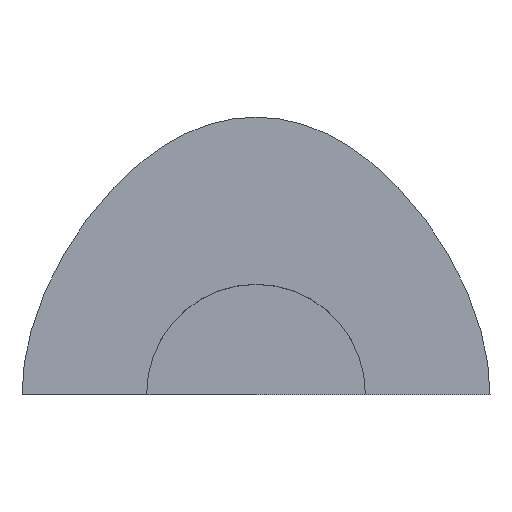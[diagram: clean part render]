
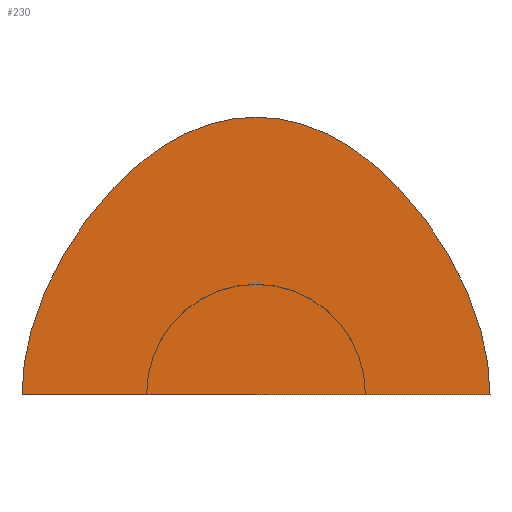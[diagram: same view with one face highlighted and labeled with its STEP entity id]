
A CAD part, top view. The second image highlights one B-rep face of the part: STEP entity #230.
In plain terms, the highlighted planar face has unit normal (0, 0, 1).
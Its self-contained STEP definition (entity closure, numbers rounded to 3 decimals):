
#193=CARTESIAN_POINT('Axis2P3D Location',(0.,51.536,0.)) ;
#198=CARTESIAN_POINT('Line Origine',(0.,0.,0.)) ;
#202=CARTESIAN_POINT('Vertex',(-107.,0.,0.)) ;
#204=CARTESIAN_POINT('Vertex',(107.,0.,0.)) ;
#208=CARTESIAN_POINT('Control Point',(0.,127.,0.)) ;
#209=CARTESIAN_POINT('Control Point',(33.213,127.,0.)) ;
#210=CARTESIAN_POINT('Control Point',(64.115,107.705,0.)) ;
#211=CARTESIAN_POINT('Control Point',(92.705,69.115,0.)) ;
#212=CARTESIAN_POINT('Control Point',(107.,33.213,0.)) ;
#213=CARTESIAN_POINT('Control Point',(107.,0.,0.)) ;
#214=CARTESIAN_POINT('Vertex',(0.,127.,0.)) ;
#218=CARTESIAN_POINT('Control Point',(0.,127.,0.)) ;
#219=CARTESIAN_POINT('Control Point',(-33.213,127.,0.)) ;
#220=CARTESIAN_POINT('Control Point',(-64.115,107.705,0.)) ;
#221=CARTESIAN_POINT('Control Point',(-92.705,69.115,0.)) ;
#222=CARTESIAN_POINT('Control Point',(-107.,33.213,0.)) ;
#223=CARTESIAN_POINT('Control Point',(-107.,0.,0.)) ;
#194=DIRECTION('Axis2P3D Direction',(0.,0.,1.)) ;
#195=DIRECTION('Axis2P3D XDirection',(1.,0.,0.)) ;
#199=DIRECTION('Vector Direction',(1.,0.,0.)) ;
#196=AXIS2_PLACEMENT_3D('Plane Axis2P3D',#193,#194,#195) ;
#226=ORIENTED_EDGE('',*,*,#206,.T.) ;
#227=ORIENTED_EDGE('',*,*,#216,.T.) ;
#228=ORIENTED_EDGE('',*,*,#224,.T.) ;
#200=VECTOR('Line Direction',#199,1.) ;
#230=ADVANCED_FACE('Fill.1',(#229),#197,.T.) ;
#207=B_SPLINE_CURVE_WITH_KNOTS('',5,(#208,#209,#210,#211,#212,#213),.UNSPECIFIED.,.F.,.U.,(6,6),(0.,166.066),.UNSPECIFIED.) ;
#217=B_SPLINE_CURVE_WITH_KNOTS('',5,(#218,#219,#220,#221,#222,#223),.UNSPECIFIED.,.F.,.U.,(6,6),(0.,166.066),.UNSPECIFIED.) ;
#206=EDGE_CURVE('',#203,#205,#201,.T.) ;
#216=EDGE_CURVE('',#205,#215,#207,.F.) ;
#224=EDGE_CURVE('',#215,#203,#217,.T.) ;
#225=EDGE_LOOP('',(#226,#227,#228)) ;
#229=FACE_OUTER_BOUND('',#225,.T.) ;
#201=LINE('Line',#198,#200) ;
#197=PLANE('',#196) ;
#203=VERTEX_POINT('',#202) ;
#205=VERTEX_POINT('',#204) ;
#215=VERTEX_POINT('',#214) ;
